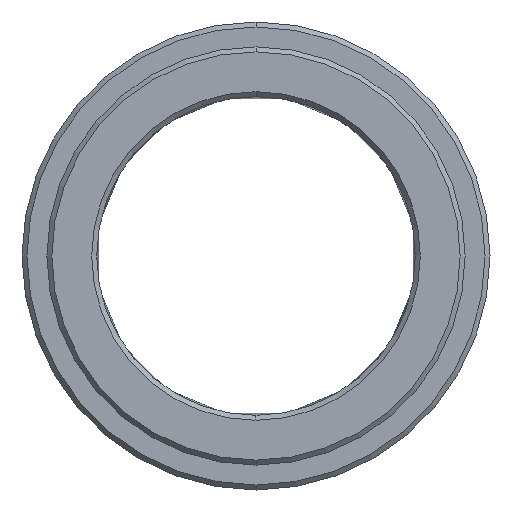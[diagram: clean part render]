
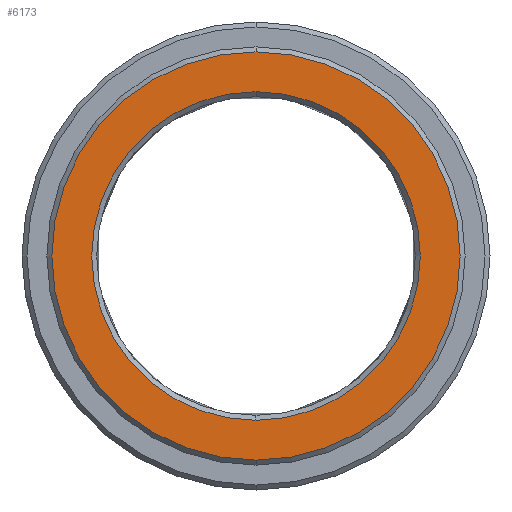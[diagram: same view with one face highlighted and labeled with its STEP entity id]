
A CAD part, left-side view. The second image highlights one B-rep face of the part: STEP entity #6173.
In plain terms, the highlighted planar face has unit normal (-1, 0, 0).
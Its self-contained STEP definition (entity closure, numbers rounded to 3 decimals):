
#4034=CARTESIAN_POINT('',(-8.,0.,
0.));
#4035=DIRECTION('',(1.,0.,0.));
#4036=DIRECTION('',(0.,0.,-1.));
#4037=AXIS2_PLACEMENT_3D('',#4034,#4035,#4036);
#4039=CARTESIAN_POINT('',(-8.,0.,0.));
#4040=DIRECTION('',(1.,0.,0.));
#4041=DIRECTION('',(0.,0.,1.));
#4042=AXIS2_PLACEMENT_3D('',#4039,#4040,#4041);
#4044=CARTESIAN_POINT('',(-8.,0.,0.));
#4045=DIRECTION('',(1.,0.,0.));
#4046=DIRECTION('',(0.,0.,-1.));
#4047=AXIS2_PLACEMENT_3D('',#4044,#4045,#4046);
#4049=CARTESIAN_POINT('',(-8.,0.,0.));
#4050=DIRECTION('',(1.,0.,0.));
#4051=DIRECTION('',(0.,0.,1.));
#4052=AXIS2_PLACEMENT_3D('',#4049,#4050,#4051);
#4330=CARTESIAN_POINT('',(-8.,0.,-16.5));
#4331=CARTESIAN_POINT('',(-8.,0.,16.5));
#4332=VERTEX_POINT('',#4330);
#4333=VERTEX_POINT('',#4331);
#4338=CARTESIAN_POINT('',(-8.,0.,-20.5));
#4339=CARTESIAN_POINT('',(-8.,0.,20.5));
#4340=VERTEX_POINT('',#4338);
#4341=VERTEX_POINT('',#4339);
#6158=CARTESIAN_POINT('',(-8.,0.,0.));
#6159=DIRECTION('',(1.,0.,0.));
#6160=DIRECTION('',(0.,0.,1.));
#6161=AXIS2_PLACEMENT_3D('',#6158,#6159,#6160);
#6162=PLANE('',#6161);
#6163=ORIENTED_EDGE('',*,*,#6140,.T.);
#6164=ORIENTED_EDGE('',*,*,#6125,.T.);
#6165=EDGE_LOOP('',(#6163,#6164));
#6166=FACE_OUTER_BOUND('',#6165,.F.);
#6168=ORIENTED_EDGE('',*,*,#6167,.F.);
#6170=ORIENTED_EDGE('',*,*,#6169,.F.);
#6171=EDGE_LOOP('',(#6168,#6170));
#6172=FACE_BOUND('',#6171,.F.);
#6173=ADVANCED_FACE('',(#6166,#6172),#6162,.F.);
#4038=CIRCLE('',#4037,20.5);
#4043=CIRCLE('',#4042,20.5);
#4048=CIRCLE('',#4047,16.5);
#4053=CIRCLE('',#4052,16.5);
#6125=EDGE_CURVE('',#4341,#4340,#4043,.T.);
#6140=EDGE_CURVE('',#4340,#4341,#4038,.T.);
#6167=EDGE_CURVE('',#4332,#4333,#4048,.T.);
#6169=EDGE_CURVE('',#4333,#4332,#4053,.T.);
